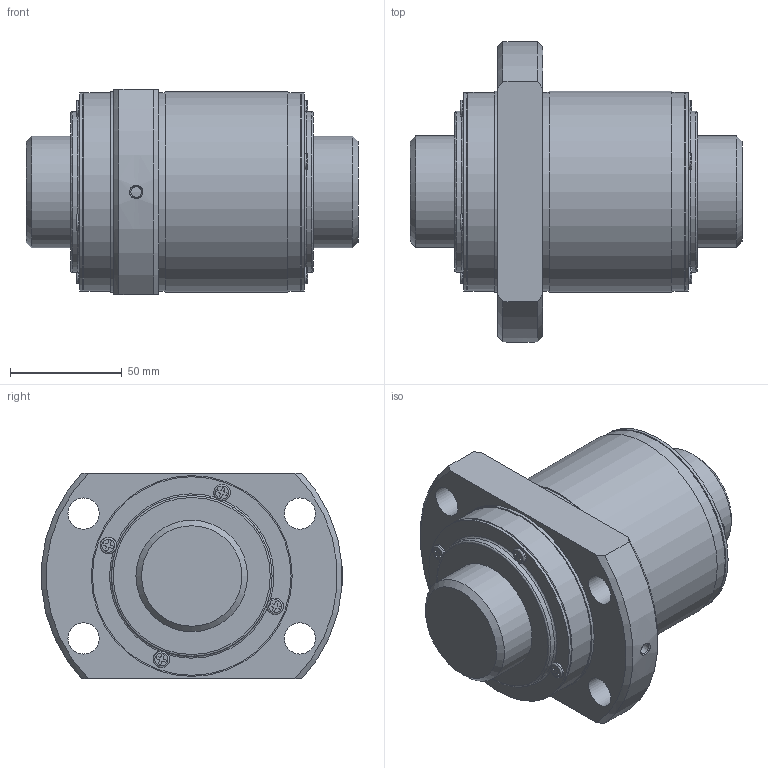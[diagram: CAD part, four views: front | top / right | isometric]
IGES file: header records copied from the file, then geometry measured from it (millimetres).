
Start section: Data from Parasolid IGES Translator 26.0.171, Copyright(c) 2006 Siemens PLM Software. All Rights Reserved.
Global section: file name: WTF50100-2ZZ+148.8LC7T_000_rev.igs; native system: By Siemens PLM Incorporated; preprocessor: XPlus GENERIC/IGES 26.0.171; author: Noname; organization: Noname; date: 20250611.064144; units: millimetre
Bounding box: 148.8 x 134.77 x 92 mm (x, y, z)
Surface area: 98276.9 mm2 (no closed solid volume)
Topology: 0 solids, 0 shells, 214 faces, 1128 edges, 1068 vertices
Faces by surface type: extrusion 127, revolution 87
